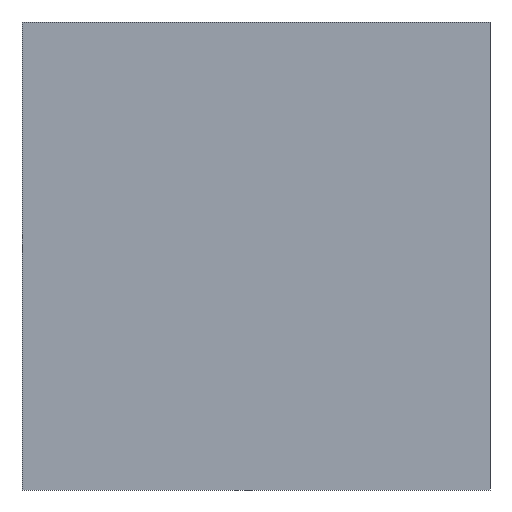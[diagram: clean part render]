
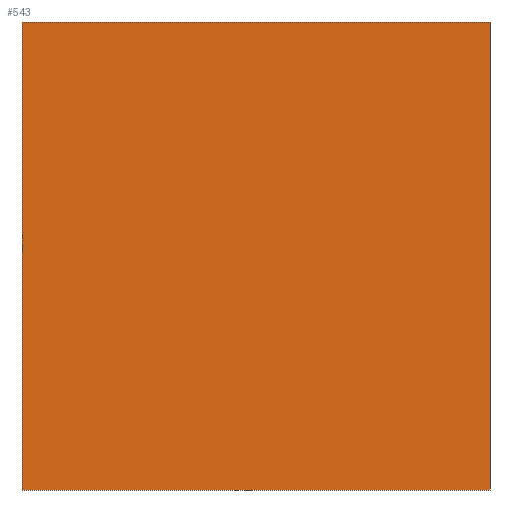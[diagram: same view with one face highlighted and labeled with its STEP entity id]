
A CAD part, left-side view. The second image highlights one B-rep face of the part: STEP entity #543.
In plain terms, the highlighted planar face has unit normal (-1, 0, 0).
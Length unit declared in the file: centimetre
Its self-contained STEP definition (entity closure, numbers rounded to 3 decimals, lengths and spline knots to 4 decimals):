
#39 = CARTESIAN_POINT ( 'NONE',  ( 0., 0., 1000. ) ) ;
#49 = LINE ( 'NONE', #406, #150 ) ;
#51 = VECTOR ( 'NONE', #501, 100. ) ;
#57 = ORIENTED_EDGE ( 'NONE', *, *, #595, .F. ) ;
#87 = AXIS2_PLACEMENT_3D ( 'NONE', #282, #176, #385 ) ;
#133 = CARTESIAN_POINT ( 'NONE',  ( 0., 0., 1000. ) ) ;
#138 = LINE ( 'NONE', #301, #654 ) ;
#148 = DIRECTION ( 'NONE',  ( 0., -1., 0. ) ) ;
#150 = VECTOR ( 'NONE', #454, 100. ) ;
#168 = VECTOR ( 'NONE', #510, 100. ) ;
#176 = DIRECTION ( 'NONE',  ( 1., 0., 0. ) ) ;
#178 = EDGE_CURVE ( 'NONE', #529, #316, #138, .T. ) ;
#219 = PLANE ( 'NONE',  #87 ) ;
#232 = CARTESIAN_POINT ( 'NONE',  ( 0., 1000., 1000. ) ) ;
#268 = VERTEX_POINT ( 'NONE', #444 ) ;
#282 = CARTESIAN_POINT ( 'NONE',  ( 0., 1000., 1000. ) ) ;
#301 = CARTESIAN_POINT ( 'NONE',  ( 0., 1000., 1000. ) ) ;
#316 = VERTEX_POINT ( 'NONE', #133 ) ;
#335 = LINE ( 'NONE', #594, #51 ) ;
#374 = ORIENTED_EDGE ( 'NONE', *, *, #178, .F. ) ;
#383 = ORIENTED_EDGE ( 'NONE', *, *, #666, .T. ) ;
#385 = DIRECTION ( 'NONE',  ( 0., 0., -1. ) ) ;
#406 = CARTESIAN_POINT ( 'NONE',  ( 0., 1000., 0. ) ) ;
#444 = CARTESIAN_POINT ( 'NONE',  ( 0., 0., 0. ) ) ;
#454 = DIRECTION ( 'NONE',  ( 0., -1., 0. ) ) ;
#456 = LINE ( 'NONE', #39, #168 ) ;
#470 = EDGE_CURVE ( 'NONE', #529, #645, #335, .T. ) ;
#493 = FACE_OUTER_BOUND ( 'NONE', #646, .T. ) ;
#501 = DIRECTION ( 'NONE',  ( 0., 0., -1. ) ) ;
#506 = CARTESIAN_POINT ( 'NONE',  ( 0., 1000., 0. ) ) ;
#510 = DIRECTION ( 'NONE',  ( 0., 0., -1. ) ) ;
#529 = VERTEX_POINT ( 'NONE', #232 ) ;
#543 = ADVANCED_FACE ( 'NONE', ( #493 ), #219, .F. ) ;
#587 = ORIENTED_EDGE ( 'NONE', *, *, #470, .T. ) ;
#594 = CARTESIAN_POINT ( 'NONE',  ( 0., 1000., 1000. ) ) ;
#595 = EDGE_CURVE ( 'NONE', #316, #268, #456, .T. ) ;
#645 = VERTEX_POINT ( 'NONE', #506 ) ;
#646 = EDGE_LOOP ( 'NONE', ( #383, #57, #374, #587 ) ) ;
#654 = VECTOR ( 'NONE', #148, 100. ) ;
#666 = EDGE_CURVE ( 'NONE', #645, #268, #49, .T. ) ;
